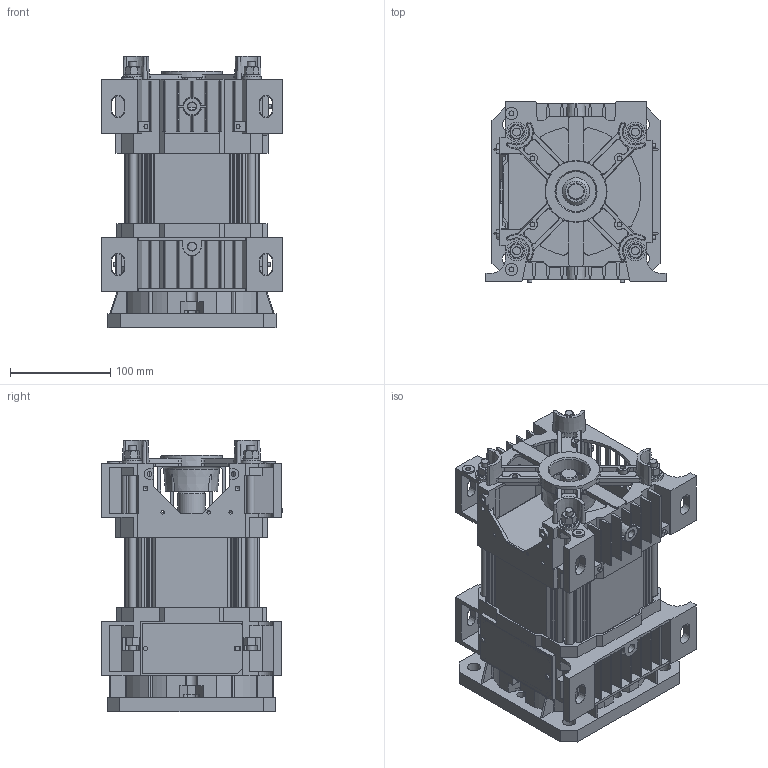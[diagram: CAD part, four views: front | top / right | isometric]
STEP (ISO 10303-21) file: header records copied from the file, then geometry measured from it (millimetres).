
FILE_DESCRIPTION(/* description */ ('Motore Tipo S34 Fl.155 F19-H80 NO Vol. NO Piedi'),/* implementation_level */ '2;1');
FILE_NAME(/* name */ 'Y:\ServerTecnico\Mockup Motori x Sito Elmo\Mockup Tipo S34 Size 3 FL155 F19-H80 NO Volano.stp',/* time_stamp */ '2016-10-07T15:21:54+02:00',/* author */ ('aparmini'),/* organization */ (''),/* preprocessor_version */ 'ST-DEVELOPER v16.5',/* originating_system */ 'Autodesk Inventor 2017',/* authorisation */ '');
FILE_SCHEMA (('AUTOMOTIVE_DESIGN { 1 0 10303 214 3 1 1 }'));
Products named in the file (8): Mockup Tipo S34 Size 3 FL155 F19-H80 NO Volano; Mockup CP3XD040N; Mockup CA3ND155Q; Mockup Statore Size 3 - F19-H80; TGS10; TI08ML205; DIN 125-2 - B 8,4; UNI 5587 - M8
Assembly tree (20 placements, depth 2):
  Mockup Tipo S34 Size 3 FL155 F19-H80 NO Volano
    Mockup CP3XD040N
    Mockup CA3ND155Q
    Mockup Statore Size 3 - F19-H80
    TGS10
    TI08ML205  x4
    UNI 5587 - M8  x8
    DIN 125-2 - B 8,4  x4
Bounding box: 180 x 181 x 271 mm (x, y, z)
Volume: 2343115.2 mm3; surface area: 531822.9 mm2
Topology: 20 solids, 20 shells, 1909 faces, 5299 edges, 3428 vertices
Faces by surface type: plane 1048, cylinder 410, cone 340, bspline 86, torus 25
Full cylindrical faces by diameter (mm): 3.2 x3, 4 x8, 4.917 x4, 5 x2, 6.647 x8, 8 x4, 8.4 x4, 12 x2, 13 x4, 16 x4, 17 x1, 19 x1, 20 x4, 21 x1, 27.5 x1, 32 x1, 40 x2, 40.1 x1, 42.5 x1, 46 x1, 81 x1, 155 x1
Entity records: 58865 total; most frequent: CARTESIAN_POINT 13130, ORIENTED_EDGE 9592, DIRECTION 9568, EDGE_CURVE 4796, AXIS2_PLACEMENT_3D 3303, VERTEX_POINT 3187, LINE 2962, VECTOR 2962
